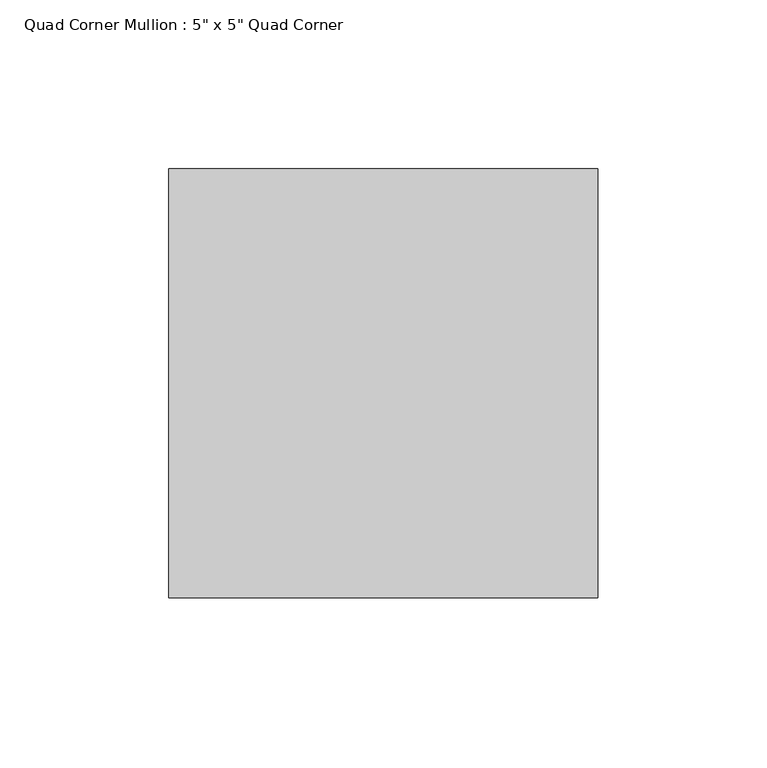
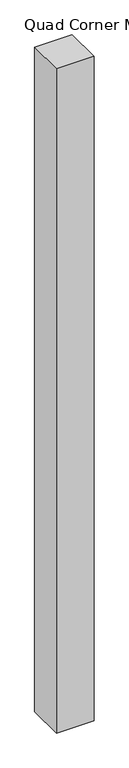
"""IFC4 building model written with IfcOpenShell, lengths in millimetres: member geometry."""

from ifc_helpers import new_model, si_unit, frame, origin, place, context, project, spatial, polyline, outline, extrude, source, transform, mapped, element, save


def member_e0c2e9e1(model_context):
    return source(origin(), model_context, "Body", "SweptSolid", [
        extrude(outline(polyline([(63.5, 63.5), (63.5, -63.5), (-63.5, -63.5), (-63.5, 63.5), (63.5, 63.5)])), frame((0.0, 0.0, -2374.9), z_axis=(0.0, 0.0, 1.0), x_axis=(1.0, 0.0, 0.0)), (0.0, 0.0, 1.0), 2374.9),
    ])


if __name__ == "__main__":
    model = new_model("IFC4")
    model_context = context("Model", 3, world=origin())
    ifc_project = project(units=[si_unit("LENGTHUNIT", "METRE", prefix="MILLI")], contexts=[model_context])
    site = spatial("IfcSite", under=ifc_project)
    building = spatial("IfcBuilding", under=site)
    placement = place(None, origin())
    member_shape = member_e0c2e9e1(model_context)
    element("IfcMember", 1, ObjectType="Quad Corner Mullion : 5\" x 5\" Quad Corner", at=placement, inside=building, context=model_context, shape_type="MappedRepresentation", body=[
        mapped(member_shape, transform((0.0, 0.0, 0.0), x_axis=(1.0, 0.0, 0.0), y_axis=(0.0, 1.0, 0.0), z_axis=(0.0, 0.0, 1.0))),
    ])
    save(model, "model.ifc")
